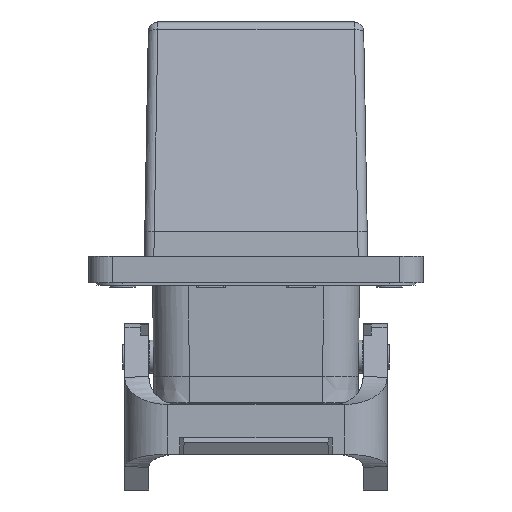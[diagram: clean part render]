
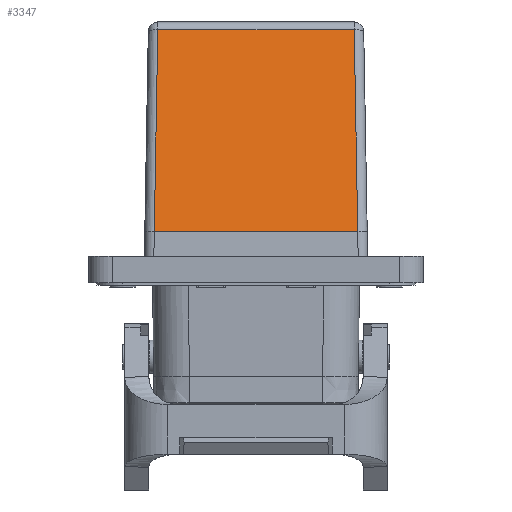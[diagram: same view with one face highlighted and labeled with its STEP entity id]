
A CAD part, left-side view. The second image highlights one B-rep face of the part: STEP entity #3347.
In plain terms, the highlighted planar face has unit normal (-0.982, 0, 0.191).
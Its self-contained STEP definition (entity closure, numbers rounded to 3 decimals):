
#62=ELLIPSE('',#14683,16.907,2.);
#65=ELLIPSE('',#14689,16.907,2.);
#3347=ADVANCED_FACE('',(#4372),#3890,.T.);
#3890=PLANE('',#14841);
#4372=FACE_OUTER_BOUND('',#5015,.T.);
#5015=EDGE_LOOP('',(#7017,#7018,#7019,#7020,#7021,#7022));
#7017=ORIENTED_EDGE('',*,*,#10568,.T.);
#7018=ORIENTED_EDGE('',*,*,#10565,.T.);
#7019=ORIENTED_EDGE('',*,*,#10846,.T.);
#7020=ORIENTED_EDGE('',*,*,#10573,.T.);
#7021=ORIENTED_EDGE('',*,*,#10576,.T.);
#7022=ORIENTED_EDGE('',*,*,#10844,.T.);
#9242=VERTEX_POINT('',#21082);
#9243=VERTEX_POINT('',#21083);
#9244=VERTEX_POINT('',#21088);
#9248=VERTEX_POINT('',#21097);
#9249=VERTEX_POINT('',#21099);
#9250=VERTEX_POINT('',#21103);
#10565=EDGE_CURVE('',#9242,#9243,#12043,.T.);
#10568=EDGE_CURVE('',#9244,#9242,#62,.T.);
#10573=EDGE_CURVE('',#9249,#9248,#12046,.T.);
#10576=EDGE_CURVE('',#9248,#9250,#65,.T.);
#10844=EDGE_CURVE('',#9250,#9244,#12201,.T.);
#10846=EDGE_CURVE('',#9243,#9249,#12203,.T.);
#12043=LINE('',#21081,#13234);
#12046=LINE('',#21098,#13237);
#12201=LINE('',#21681,#13392);
#12203=LINE('',#21685,#13394);
#13234=VECTOR('',#16555,1.);
#13237=VECTOR('',#16572,1.);
#13392=VECTOR('',#17031,1.);
#13394=VECTOR('',#17037,1.);
#14683=AXIS2_PLACEMENT_3D('',#21087,#16562,#16563);
#14689=AXIS2_PLACEMENT_3D('',#21105,#16578,#16579);
#14841=AXIS2_PLACEMENT_3D('',#21686,#17038,#17039);
#16555=DIRECTION('',(0.191,0.017,0.981));
#16562=DIRECTION('',(-0.982,0.,0.191));
#16563=DIRECTION('',(-0.191,-0.018,-0.981));
#16572=DIRECTION('',(-0.191,0.017,-0.981));
#16578=DIRECTION('',(-0.982,0.,0.191));
#16579=DIRECTION('',(-0.191,0.018,-0.981));
#17031=DIRECTION('',(0.,-1.,0.));
#17037=DIRECTION('',(0.,1.,0.));
#17038=DIRECTION('',(-0.982,0.,0.191));
#17039=DIRECTION('',(-0.191,0.,-0.982));
#21081=CARTESIAN_POINT('',(-44.873,-21.376,25.501));
#21082=CARTESIAN_POINT('',(-45.,-21.388,24.85));
#21083=CARTESIAN_POINT('',(-36.762,-20.648,67.232));
#21087=CARTESIAN_POINT('',(-41.774,-21.091,41.444));
#21088=CARTESIAN_POINT('',(-45.,-21.384,24.85));
#21097=CARTESIAN_POINT('',(-45.,21.388,24.85));
#21098=CARTESIAN_POINT('',(-44.95,21.383,25.108));
#21099=CARTESIAN_POINT('',(-36.762,20.648,67.232));
#21103=CARTESIAN_POINT('',(-45.,21.384,24.85));
#21105=CARTESIAN_POINT('',(-41.774,21.091,41.444));
#21681=CARTESIAN_POINT('',(-45.,0.,24.85));
#21685=CARTESIAN_POINT('',(-36.762,0.,67.232));
#21686=CARTESIAN_POINT('',(-44.943,0.,25.141));
